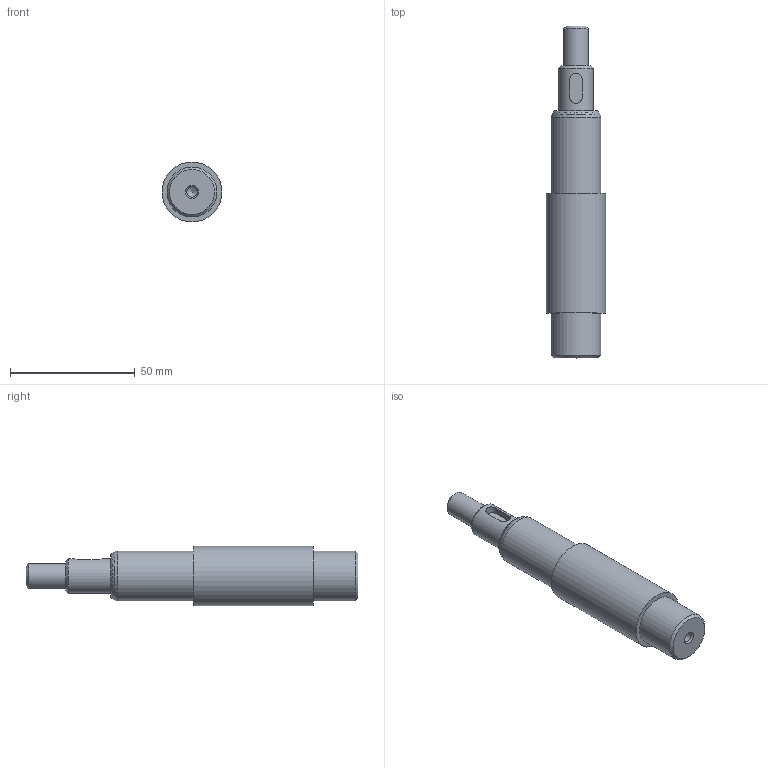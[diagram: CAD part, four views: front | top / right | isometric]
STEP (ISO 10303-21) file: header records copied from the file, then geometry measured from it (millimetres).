
FILE_DESCRIPTION(/* description */ (''),/* implementation_level */ '2;1');
FILE_NAME(/* name */ 'C:\Users\now\Desktop\391003E1008\391003E1008-축.stp',/* time_stamp */ '2019-10-26T11:33:04+09:00',/* author */ ('now'),/* organization */ (''),/* preprocessor_version */ 'ST-DEVELOPER v15.6',/* originating_system */ 'Autodesk Inventor 2015',/* authorisation */ '');
FILE_SCHEMA (('AUTOMOTIVE_DESIGN { 1 0 10303 214 3 1 1 }'));
Length unit declared in the file: millimetre
Products named in the file (1): 391003E1008 축
Bounding box: 24 x 133 x 24 mm (x, y, z)
Volume: 41283.3 mm3; surface area: 9117 mm2
Topology: 1 solids, 1 shells, 25 faces, 49 edges, 31 vertices
Faces by surface type: plane 9, cylinder 8, cone 6, torus 2
Full cylindrical faces by diameter (mm): 4.134 x1, 10 x1, 14 x1, 20 x2, 24 x1
Entity records: 608 total; most frequent: CARTESIAN_POINT 124, DIRECTION 102, ORIENTED_EDGE 66, AXIS2_PLACEMENT_3D 47, EDGE_LOOP 44, EDGE_CURVE 33, VERTEX_POINT 29, FACE_OUTER_BOUND 25
